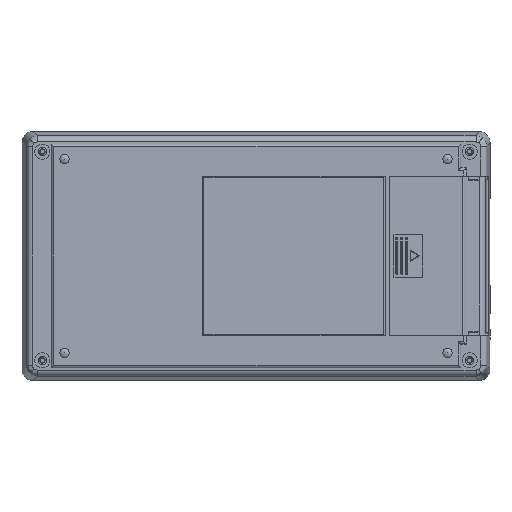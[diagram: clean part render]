
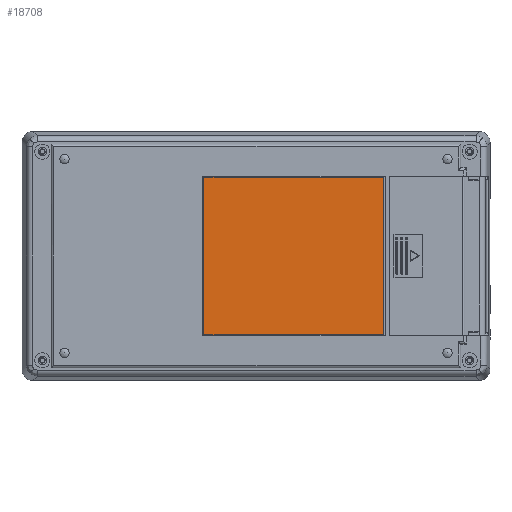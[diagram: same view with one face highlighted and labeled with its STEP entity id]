
A CAD part, front view. The second image highlights one B-rep face of the part: STEP entity #18708.
In plain terms, the highlighted planar face has unit normal (0, -1, 0).
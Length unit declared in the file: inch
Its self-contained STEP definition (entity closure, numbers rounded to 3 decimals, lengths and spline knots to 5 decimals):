
#166 = EDGE_CURVE ( 'NONE', #741, #13929, #23448, .T. ) ;
#360 = LINE ( 'NONE', #6016, #20497 ) ;
#741 = VERTEX_POINT ( 'NONE', #11859 ) ;
#2219 = DIRECTION ( 'NONE',  ( 1., 0., 0. ) ) ;
#2283 = DIRECTION ( 'NONE',  ( -1., 0., 0. ) ) ;
#2319 = CARTESIAN_POINT ( 'NONE',  ( -0.83465, -0.56299, -1.25984 ) ) ;
#2604 = DIRECTION ( 'NONE',  ( 0., 0., -1. ) ) ;
#3064 = ORIENTED_EDGE ( 'NONE', *, *, #166, .T. ) ;
#4877 = EDGE_CURVE ( 'NONE', #13929, #10259, #360, .T. ) ;
#5249 = EDGE_CURVE ( 'NONE', #10259, #7963, #12210, .T. ) ;
#6016 = CARTESIAN_POINT ( 'NONE',  ( 2.05118, -0.56299, 1.25984 ) ) ;
#6592 = VECTOR ( 'NONE', #14602, 39.37008 ) ;
#7095 = EDGE_CURVE ( 'NONE', #7963, #741, #17166, .T. ) ;
#7856 = CARTESIAN_POINT ( 'NONE',  ( 2.05118, -0.56299, 1.25984 ) ) ;
#7963 = VERTEX_POINT ( 'NONE', #2319 ) ;
#8792 = CARTESIAN_POINT ( 'NONE',  ( -0.83465, -0.56299, 1.25984 ) ) ;
#9379 = ORIENTED_EDGE ( 'NONE', *, *, #7095, .T. ) ;
#10259 = VERTEX_POINT ( 'NONE', #18142 ) ;
#11373 = ORIENTED_EDGE ( 'NONE', *, *, #4877, .T. ) ;
#11859 = CARTESIAN_POINT ( 'NONE',  ( 2.05118, -0.56299, -1.25984 ) ) ;
#12210 = LINE ( 'NONE', #8792, #6592 ) ;
#12293 = AXIS2_PLACEMENT_3D ( 'NONE', #13873, #13953, #2604 ) ;
#13873 = CARTESIAN_POINT ( 'NONE',  ( -3.75197, -0.56299, -1.99606 ) ) ;
#13929 = VERTEX_POINT ( 'NONE', #22273 ) ;
#13953 = DIRECTION ( 'NONE',  ( 0., -1., 0. ) ) ;
#14020 = VECTOR ( 'NONE', #19186, 39.37008 ) ;
#14602 = DIRECTION ( 'NONE',  ( 0., 0., -1. ) ) ;
#17166 = LINE ( 'NONE', #22970, #17732 ) ;
#17732 = VECTOR ( 'NONE', #2219, 39.37008 ) ;
#17909 = ORIENTED_EDGE ( 'NONE', *, *, #5249, .T. ) ;
#18142 = CARTESIAN_POINT ( 'NONE',  ( -0.83465, -0.56299, 1.25984 ) ) ;
#18188 = EDGE_LOOP ( 'NONE', ( #9379, #3064, #11373, #17909 ) ) ;
#18708 = ADVANCED_FACE ( 'NONE', ( #21266 ), #21436, .T. ) ;
#19186 = DIRECTION ( 'NONE',  ( 0., 0., 1. ) ) ;
#20497 = VECTOR ( 'NONE', #2283, 39.37008 ) ;
#21266 = FACE_OUTER_BOUND ( 'NONE', #18188, .T. ) ;
#21436 = PLANE ( 'NONE',  #12293 ) ;
#22273 = CARTESIAN_POINT ( 'NONE',  ( 2.05118, -0.56299, 1.25984 ) ) ;
#22970 = CARTESIAN_POINT ( 'NONE',  ( 2.05118, -0.56299, -1.25984 ) ) ;
#23448 = LINE ( 'NONE', #7856, #14020 ) ;
